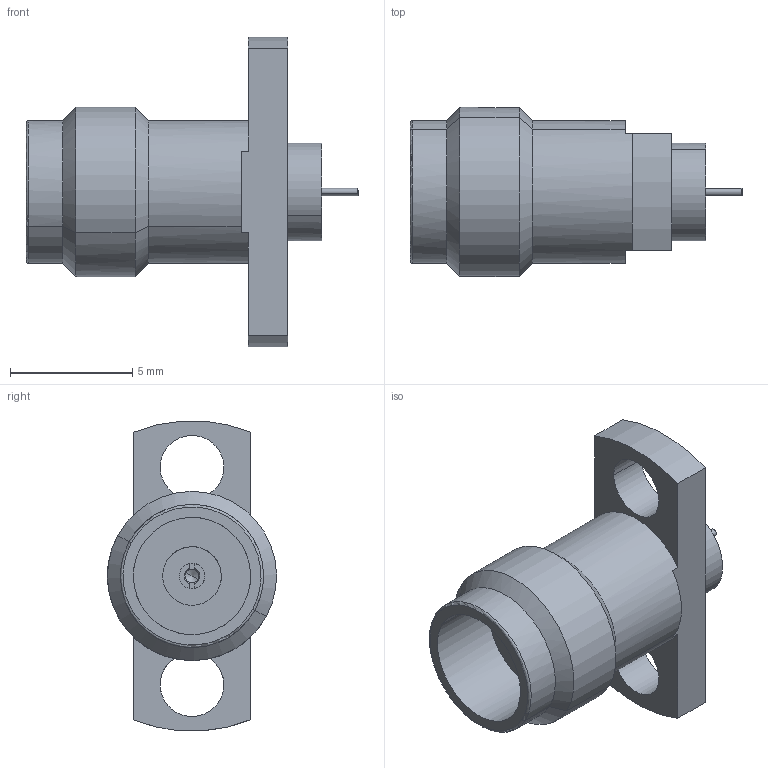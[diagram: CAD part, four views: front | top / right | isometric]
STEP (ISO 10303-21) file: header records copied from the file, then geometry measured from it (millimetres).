
FILE_DESCRIPTION(('CATIA V5 STEP Exchange'),'2;1');
FILE_NAME('F:\Work SZ\CMP 图纸\Precision Coaxial Connector\2.4mm\97-02-9E2-017\97-02-9E2-017A(REV.A).stp','2013-08-09T02:41:49+00:00',('none'),('none'),'CATIA Version 5 Release 17 (IN-10)','CATIA V5 STEP AP203','none');
FILE_SCHEMA(('CONFIG_CONTROL_DESIGN'));
Length unit declared in the file: millimetre
Products named in the file (1): 97-02-9E2-017A
Bounding box: 13.58 x 6.92 x 12.68 mm (x, y, z)
Volume: 305.1 mm3; surface area: 469 mm2
Topology: 1 solids, 1 shells, 60 faces, 145 edges, 91 vertices
Faces by surface type: cylinder 26, plane 21, cone 11, torus 2
Entity records: 2102 total; most frequent: CARTESIAN_POINT 786, ORIENTED_EDGE 286, DIRECTION 202, EDGE_CURVE 143, VERTEX_POINT 91, AXIS2_PLACEMENT_3D 88, EDGE_LOOP 70, VECTOR 65
